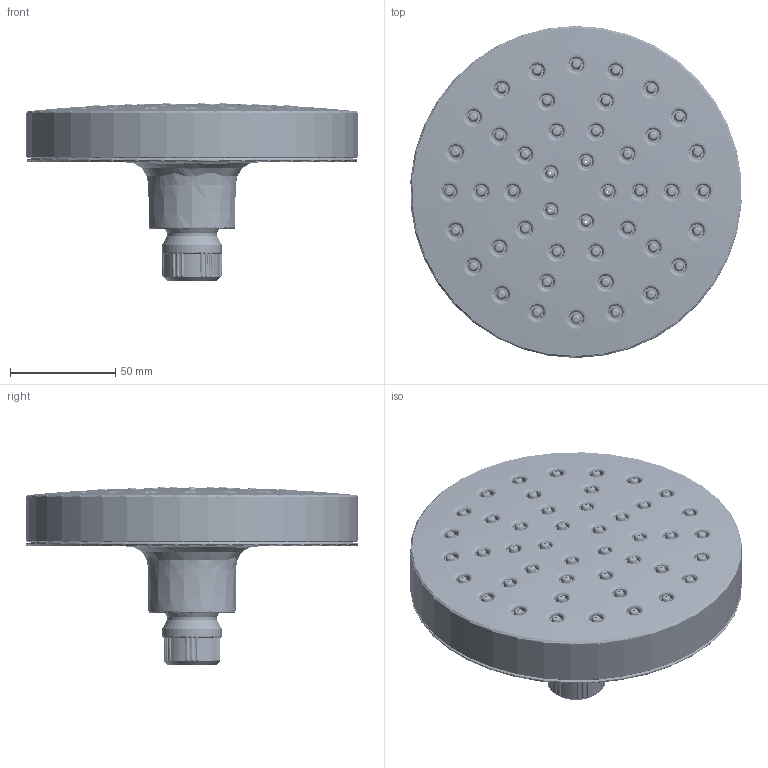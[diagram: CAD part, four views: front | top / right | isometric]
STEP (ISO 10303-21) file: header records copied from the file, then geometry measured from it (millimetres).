
FILE_DESCRIPTION (( 'STEP AP214' ), '1' );
FILE_NAME ('195849SERIES.STEP', '2026-04-30T02:34:13', ( '' ), ( '' ), 'SwSTEP 2.0', 'SolidWorks 2025', '' );
FILE_SCHEMA (( 'AUTOMOTIVE_DESIGN' ));
Length unit declared in the file: millimetre
Products named in the file (11): 195849SERIES; 128858SERIES_128858Series_Compressed; 183294series_P_183294; 120172_120172_BREP; 195850SERIES_195850SERIES; 121200_121200_BREP; 195851SERIES_195851SERIES; 182772_182772; 143411_143411; G_182773_g_182773; 143410SERIES_143410SERIES
Assembly tree (10 placements, depth 4):
  195849SERIES
    183294series_P_183294
      G_182773_g_182773
        182772_182772
    128858SERIES_128858Series_Compressed
    143410SERIES_143410SERIES
    121200_121200_BREP
    120172_120172_BREP
    195851SERIES_195851SERIES
    195850SERIES_195850SERIES
    143411_143411
Bounding box: 157.08 x 157.48 x 84.41 mm (x, y, z)
Volume: 199658.9 mm3; surface area: 158263.1 mm2
Topology: 8 solids, 8 shells, 4109 faces, 10442 edges, 6231 vertices
Faces by surface type: bspline 2022, torus 674, cylinder 512, cone 443, plane 384, sphere 74
Entity records: 249989 total; most frequent: CARTESIAN_POINT 167728, ORIENTED_EDGE 20674, DIRECTION 12293, EDGE_CURVE 10337, VERTEX_POINT 6228, AXIS2_PLACEMENT_3D 5359, B_SPLINE_CURVE_WITH_KNOTS 5260, EDGE_LOOP 4305
